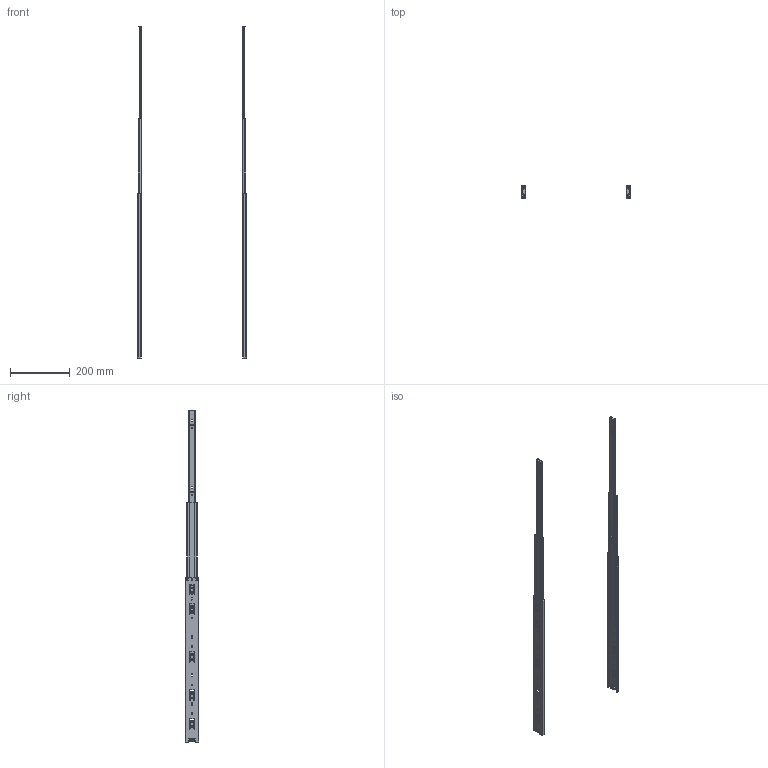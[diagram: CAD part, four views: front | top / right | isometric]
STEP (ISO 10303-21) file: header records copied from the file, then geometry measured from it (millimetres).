
FILE_DESCRIPTION(/* description */ (''),/* implementation_level */ '2;1');
FILE_NAME(/* name */ 'D:\$Workingspace\Designs\Katalog\Cadsoft\GTV Prowadnice\Prowadnice GTV_bryły 3D\PK-0-H45-550_wysunieta.stp',/* time_stamp */ '2016-11-22T11:28:52+01:00',/* author */ ('tomaszw'),/* organization */ (''),/* preprocessor_version */ 'ST-DEVELOPER v16.1',/* originating_system */ 'Autodesk Inventor 2016',/* authorisation */ '');
FILE_SCHEMA (('AUTOMOTIVE_DESIGN { 1 0 10303 214 3 1 1 }'));
Length unit declared in the file: millimetre
Products named in the file (5): Blokada_4; PK-0-H45_1-550; PK-0-H45_2-550; PK-0-H45_3-550; PK-0-H45
Assembly tree (8 placements, depth 2):
  PK-0-H45
    Blokada_4  x2
    PK-0-H45_1-550  x2
    PK-0-H45_2-550  x2
    PK-0-H45_3-550  x2
Bounding box: 364 x 44.5 x 1110 mm (x, y, z)
Volume: 174910.9 mm3; surface area: 342962.9 mm2
Topology: 8 solids, 8 shells, 536 faces, 1552 edges, 1032 vertices
Faces by surface type: cylinder 280, plane 252, cone 4
Full cylindrical faces by diameter (mm): 4.5 x14, 5 x8, 6.4 x10
Entity records: 9394 total; most frequent: DIRECTION 1592, CARTESIAN_POINT 1583, ORIENTED_EDGE 1520, EDGE_CURVE 760, AXIS2_PLACEMENT_3D 559, VERTEX_POINT 516, LINE 474, VECTOR 474
